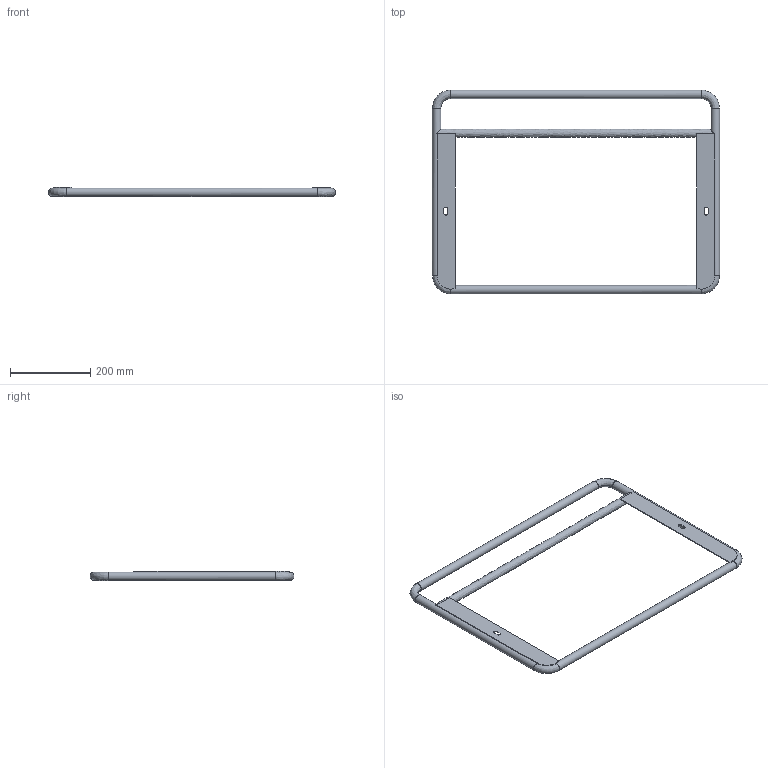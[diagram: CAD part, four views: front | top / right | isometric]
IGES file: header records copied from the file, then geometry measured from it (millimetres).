
Start section: C
Global section: file name: portasciugamani grande.igs; native system:  By UGS Corp.; preprocessor: XPlus GENERIC/IGES 3.0; author: Author; organization: Title; date: 20140711.091826; units: millimetre
Bounding box: 715 x 507.5 x 22.5 mm (x, y, z)
Surface area: 269164.6 mm2 (no closed solid volume)
Topology: 0 solids, 0 shells, 31 faces, 154 edges, 154 vertices
Faces by surface type: bspline 31
